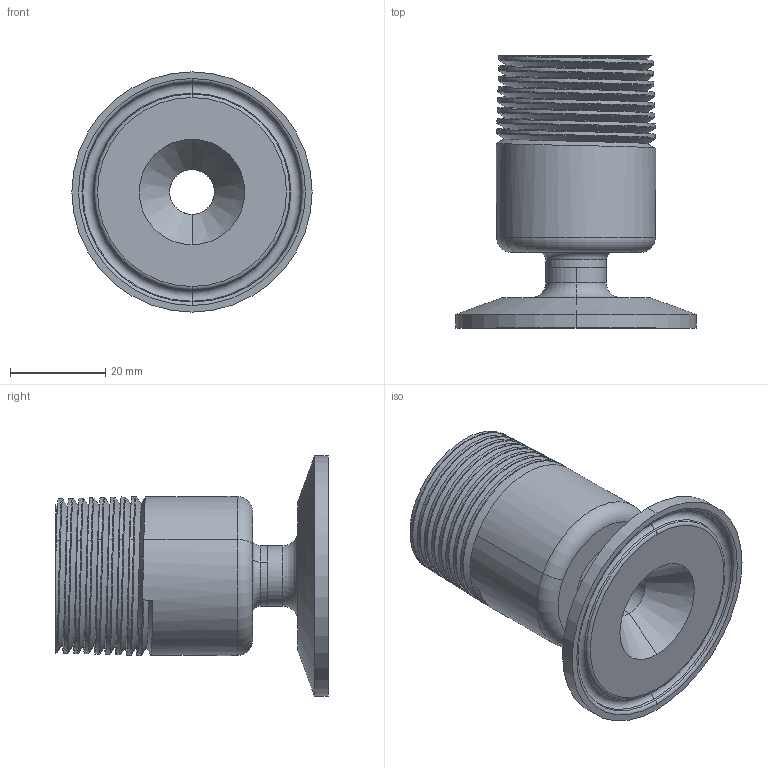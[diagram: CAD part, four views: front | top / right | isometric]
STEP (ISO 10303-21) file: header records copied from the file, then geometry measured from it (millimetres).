
FILE_DESCRIPTION (( 'STEP AP203' ), '1' );
FILE_NAME ('EG21-6L1.0X.5.STEP', '2021-10-08T16:10:05', ( '' ), ( '' ), 'SwSTEP 2.0', 'SolidWorks 2021', '' );
FILE_SCHEMA (( 'CONFIG_CONTROL_DESIGN' ));
Length unit declared in the file: inch
Products named in the file (3): EG2CS31D1.0X.50; EG21-6L1.0X.5; 19WB1.0X.50
Assembly tree (2 placements, depth 2):
  EG21-6L1.0X.5
    19WB1.0X.50
    EG2CS31D1.0X.50
Bounding box: 50.39 x 57.15 x 50.39 mm (x, y, z)
Volume: 39973.2 mm3; surface area: 14972.3 mm2
Topology: 2 solids, 2 shells, 63 faces, 147 edges, 91 vertices
Faces by surface type: cone 27, cylinder 13, torus 12, plane 8, bspline 3
Entity records: 7895 total; most frequent: CARTESIAN_POINT 6188, ORIENTED_EDGE 294, DIRECTION 293, EDGE_CURVE 147, AXIS2_PLACEMENT_3D 126, VERTEX_POINT 91, EDGE_LOOP 70, FACE_OUTER_BOUND 63
